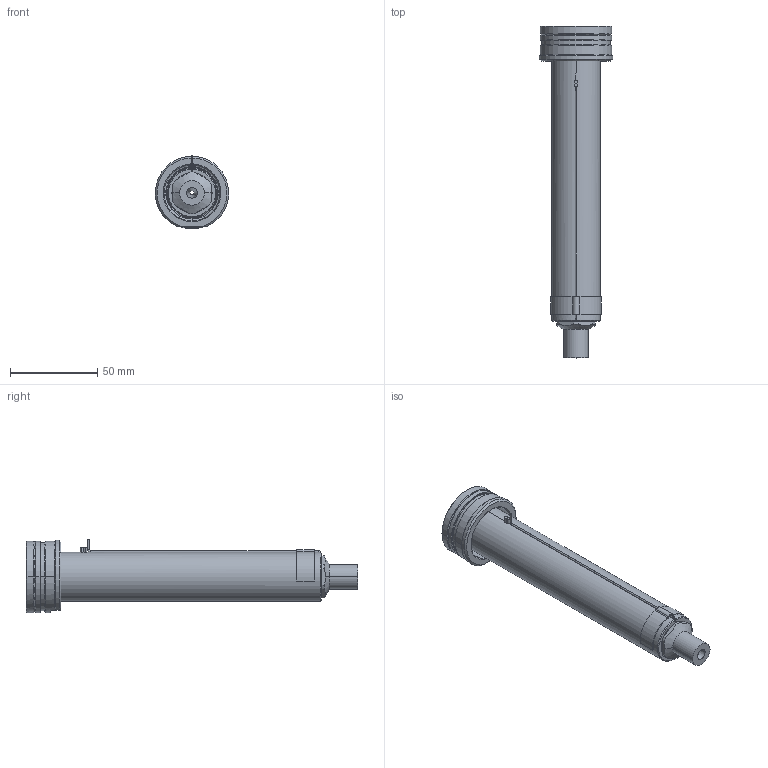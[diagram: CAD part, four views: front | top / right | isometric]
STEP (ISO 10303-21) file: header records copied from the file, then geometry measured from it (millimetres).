
FILE_DESCRIPTION((''),'2;1');
FILE_NAME('EO10_SG_ESG_160_SW','2024-02-19T12:26:56',('sundharh'),(''),'CREO PARAMETRIC BY PTC INC, 2023154','CREO PARAMETRIC BY PTC INC, 2023154','');
FILE_SCHEMA(('CONFIG_CONTROL_DESIGN'));
Length unit declared in the file: millimetre
Products named in the file (1): EO10_SG_ESG_160_SW
Bounding box: 41.85 x 190 x 42.02 mm (x, y, z)
Volume: 106093.7 mm3; surface area: 28262.2 mm2
Topology: 1 solids, 1 shells, 159 faces, 399 edges, 245 vertices
Faces by surface type: cylinder 63, plane 44, cone 29, torus 17, bspline 3, sphere 3
Entity records: 5436 total; most frequent: CARTESIAN_POINT 1559, DIRECTION 849, ORIENTED_EDGE 786, EDGE_CURVE 393, AXIS2_PLACEMENT_3D 350, VERTEX_POINT 245, CIRCLE 194, EDGE_LOOP 174
